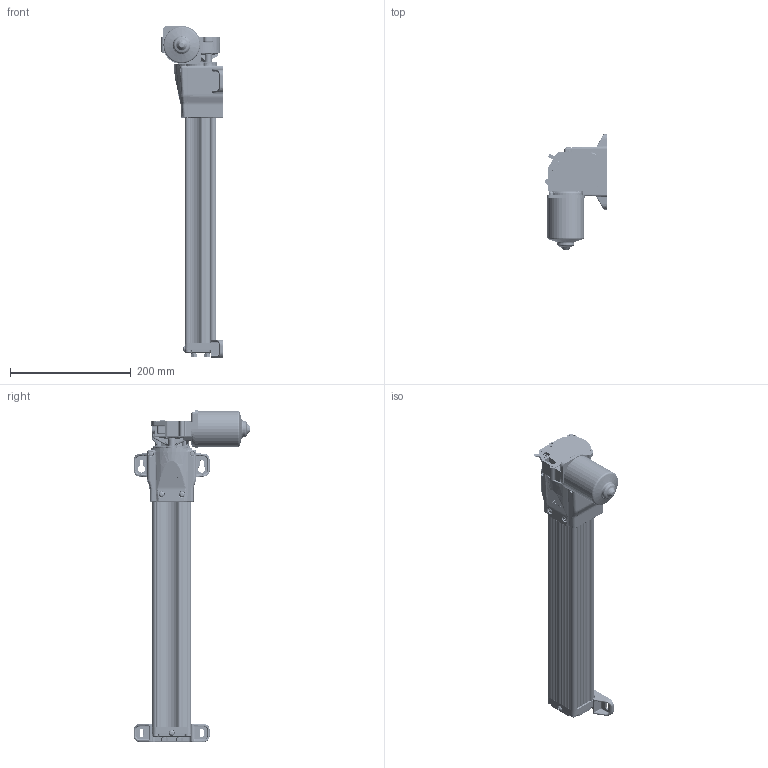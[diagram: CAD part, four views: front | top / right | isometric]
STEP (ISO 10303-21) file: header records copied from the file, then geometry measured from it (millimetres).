
FILE_DESCRIPTION (( 'STEP AP203' ), '1' );
FILE_NAME ('QXY15 Motor.STEP', '2014-01-22T19:17:49', ( '' ), ( '' ), 'SwSTEP 2.0', 'SolidWorks 2013', '' );
FILE_SCHEMA (( 'CONFIG_CONTROL_DESIGN' ));
Length unit declared in the file: millimetre
Products named in the file (1): QXY15 Motor
Bounding box: 102.7 x 193.55 x 550.97 mm (x, y, z)
Volume: 875613 mm3; surface area: 377039.5 mm2
Topology: 28 solids, 28 shells, 4939 faces, 11979 edges, 7174 vertices
Faces by surface type: cylinder 1559, plane 1104, torus 904, cone 683, bspline 616, sphere 73
Entity records: 164104 total; most frequent: CARTESIAN_POINT 51563, DIRECTION 24229, ORIENTED_EDGE 23768, EDGE_CURVE 11884, AXIS2_PLACEMENT_3D 9949, VERTEX_POINT 7170, CIRCLE 5625, EDGE_LOOP 5194
